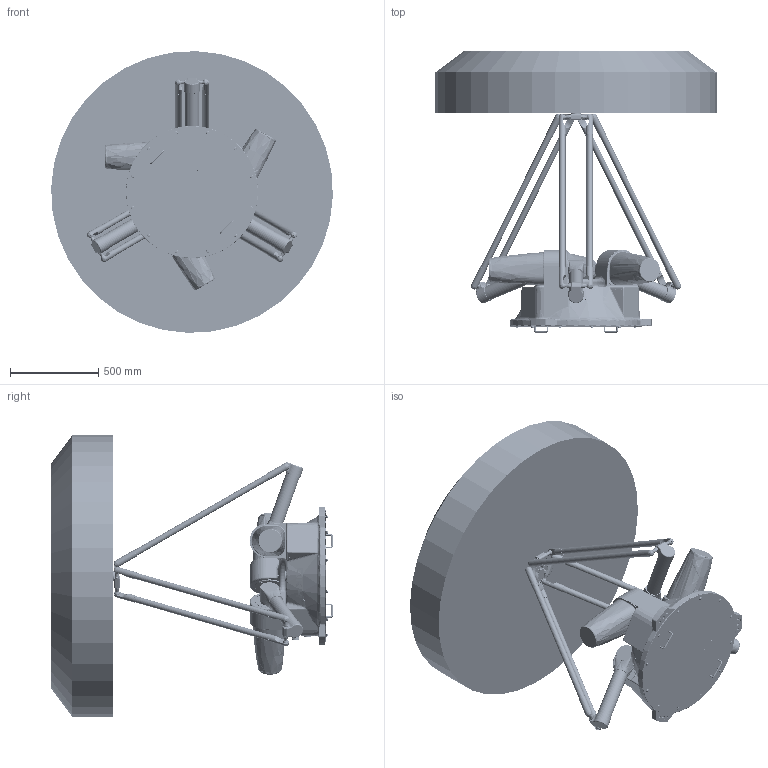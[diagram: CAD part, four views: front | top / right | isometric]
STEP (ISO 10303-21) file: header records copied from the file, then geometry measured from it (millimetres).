
FILE_DESCRIPTION (( 'STEP AP214' ), '1' );
FILE_NAME ('AP25X-1600-1543-T0-V3.0.0.STEP', '2024-12-25T09:15:54', ( '' ), ( '' ), 'SwSTEP 2.0', 'SolidWorks 2017', '' );
FILE_SCHEMA (( 'AUTOMOTIVE_DESIGN' ));
Length unit declared in the file: millimetre
Products named in the file (18): AP25X-1600-1543-T3-V1.0.0; AP15X-2200-1543-T1-V1.0.1; AP25X-1600-1543-T2-V1.0.0; AP25X-1600-1543-T5-V2.0.0; AP25X-1600-1543-T0-V3.0.0; AP25X-1600-1543-T4-V1.0.0
Assembly tree (12 placements, depth 2):
  AP25X-1600-1543-T3-V1.0.0
  AP25X-1600-1543-T2-V1.0.0
  AP25X-1600-1543-T0-V3.0.0
    AP15X-2200-1543-T1-V1.0.1
    AP25X-1600-1543-T2-V1.0.0  x3
    AP25X-1600-1543-T3-V1.0.0  x6
    AP25X-1600-1543-T4-V1.0.0
    AP25X-1600-1543-T5-V2.0.0
  AP25X-1600-1543-T5-V2.0.0
  AP25X-1600-1543-T2-V1.0.0
Bounding box: 1599.38 x 1597 x 1599.38 mm (x, y, z)
Volume: 675261055.6 mm3; surface area: 10218453.3 mm2
Topology: 23 solids, 201 shells, 5045 faces, 13532 edges, 8667 vertices
Faces by surface type: bspline 2300, plane 1292, cylinder 977, cone 382, torus 57, sphere 37
Full cylindrical faces by diameter (mm): 2.5 x6, 3 x3, 3.3 x22, 3.4 x3, 4.2 x15, 4.5 x12, 4.8 x1, 5 x82, 5.5 x4, 6 x1, 6.647 x36, 6.8 x20, 7 x9, 8 x24, 9 x42, 10 x10, 11 x8, 11.7 x7, 12.1 x1, 14 x6, 17 x1, 17.5 x1, 18 x3, 20 x6, 20.5 x6, 23.5 x1, 25 x3, 26 x1, 30 x12, 30.5 x3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
Entity records: 296844 total; most frequent: CARTESIAN_POINT 169307, ORIENTED_EDGE 19539, DIRECTION 11769, EDGE_CURVE 10273, VERTEX_POINT 7003, EDGE_LOOP 4993, B_SPLINE_CURVE_WITH_KNOTS 4606, FACE_OUTER_BOUND 4452
